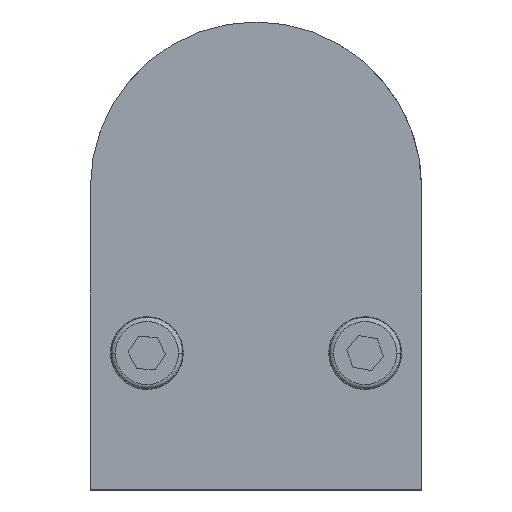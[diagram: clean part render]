
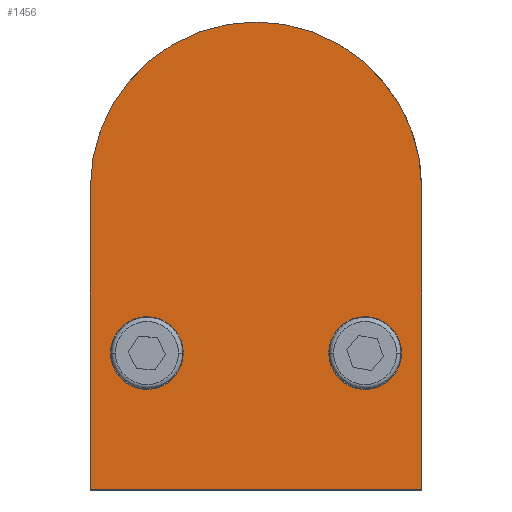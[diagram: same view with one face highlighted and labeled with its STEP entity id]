
A CAD part, top view. The second image highlights one B-rep face of the part: STEP entity #1456.
In plain terms, the highlighted planar face has unit normal (0, 0, 1).
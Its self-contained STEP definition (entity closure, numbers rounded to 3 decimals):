
#37 = AXIS2_PLACEMENT_3D ( 'NONE', #2010, #2848, #419 ) ;
#80 = CIRCLE ( 'NONE', #37, 20.5 ) ;
#141 = EDGE_CURVE ( 'NONE', #1044, #2005, #514, .T. ) ;
#180 = CIRCLE ( 'NONE', #1488, 4.5 ) ;
#208 = EDGE_CURVE ( 'NONE', #2427, #2179, #180, .T. ) ;
#292 = EDGE_LOOP ( 'NONE', ( #407, #1997 ) ) ;
#367 = VECTOR ( 'NONE', #1612, 1000. ) ;
#407 = ORIENTED_EDGE ( 'NONE', *, *, #1598, .F. ) ;
#419 = DIRECTION ( 'NONE',  ( 1., 0., 0. ) ) ;
#514 = CIRCLE ( 'NONE', #2050, 4.5 ) ;
#521 = EDGE_CURVE ( 'NONE', #2832, #1134, #1844, .T. ) ;
#555 = CARTESIAN_POINT ( 'NONE',  ( -20.5, 22.142, 14.25 ) ) ;
#702 = CARTESIAN_POINT ( 'NONE',  ( 13.5, 39.038, 14.25 ) ) ;
#722 = CARTESIAN_POINT ( 'NONE',  ( 20.5, 0., 14.25 ) ) ;
#869 = DIRECTION ( 'NONE',  ( 1., 0., 0. ) ) ;
#919 = CARTESIAN_POINT ( 'NONE',  ( -20.5, 0., 14.25 ) ) ;
#927 = ORIENTED_EDGE ( 'NONE', *, *, #2034, .F. ) ;
#934 = CARTESIAN_POINT ( 'NONE',  ( -13.5, 39.038, 14.25 ) ) ;
#1041 = PLANE ( 'NONE',  #1287 ) ;
#1044 = VERTEX_POINT ( 'NONE', #2152 ) ;
#1071 = VERTEX_POINT ( 'NONE', #2803 ) ;
#1134 = VERTEX_POINT ( 'NONE', #2860 ) ;
#1207 = DIRECTION ( 'NONE',  ( 0., 0., 1. ) ) ;
#1220 = EDGE_CURVE ( 'NONE', #1134, #1071, #80, .T. ) ;
#1257 = FACE_BOUND ( 'NONE', #1738, .T. ) ;
#1286 = ORIENTED_EDGE ( 'NONE', *, *, #1220, .T. ) ;
#1287 = AXIS2_PLACEMENT_3D ( 'NONE', #1923, #2839, #1328 ) ;
#1328 = DIRECTION ( 'NONE',  ( 1., 0., 0. ) ) ;
#1329 = EDGE_CURVE ( 'NONE', #2832, #1777, #2255, .T. ) ;
#1338 = ORIENTED_EDGE ( 'NONE', *, *, #521, .T. ) ;
#1424 = CARTESIAN_POINT ( 'NONE',  ( 20.5, 22.142, 14.25 ) ) ;
#1450 = DIRECTION ( 'NONE',  ( 1., 0., 0. ) ) ;
#1456 = ADVANCED_FACE ( 'NONE', ( #1708, #1257, #1955 ), #1041, .T. ) ;
#1476 = CIRCLE ( 'NONE', #2222, 4.5 ) ;
#1482 = CARTESIAN_POINT ( 'NONE',  ( 18., 39.038, 14.25 ) ) ;
#1488 = AXIS2_PLACEMENT_3D ( 'NONE', #2755, #1207, #1450 ) ;
#1598 = EDGE_CURVE ( 'NONE', #2005, #1044, #1476, .T. ) ;
#1612 = DIRECTION ( 'NONE',  ( 0., 1., 0. ) ) ;
#1646 = EDGE_CURVE ( 'NONE', #1071, #1777, #2213, .T. ) ;
#1662 = CIRCLE ( 'NONE', #2861, 4.5 ) ;
#1708 = FACE_BOUND ( 'NONE', #292, .T. ) ;
#1711 = ORIENTED_EDGE ( 'NONE', *, *, #1646, .T. ) ;
#1738 = EDGE_LOOP ( 'NONE', ( #1971, #927 ) ) ;
#1756 = VECTOR ( 'NONE', #2302, 1000. ) ;
#1777 = VERTEX_POINT ( 'NONE', #555 ) ;
#1809 = DIRECTION ( 'NONE',  ( -1., 0., 0. ) ) ;
#1814 = DIRECTION ( 'NONE',  ( 0., 0., 1. ) ) ;
#1844 = LINE ( 'NONE', #722, #367 ) ;
#1923 = CARTESIAN_POINT ( 'NONE',  ( 0., 59.5, 14.25 ) ) ;
#1955 = FACE_OUTER_BOUND ( 'NONE', #2215, .T. ) ;
#1971 = ORIENTED_EDGE ( 'NONE', *, *, #208, .F. ) ;
#1988 = CARTESIAN_POINT ( 'NONE',  ( -13.5, 39.038, 14.25 ) ) ;
#1997 = ORIENTED_EDGE ( 'NONE', *, *, #141, .F. ) ;
#2005 = VERTEX_POINT ( 'NONE', #2026 ) ;
#2010 = CARTESIAN_POINT ( 'NONE',  ( 0., 59.5, 14.25 ) ) ;
#2026 = CARTESIAN_POINT ( 'NONE',  ( -9., 39.038, 14.25 ) ) ;
#2034 = EDGE_CURVE ( 'NONE', #2179, #2427, #1662, .T. ) ;
#2050 = AXIS2_PLACEMENT_3D ( 'NONE', #1988, #2683, #2265 ) ;
#2086 = VECTOR ( 'NONE', #1809, 1000. ) ;
#2152 = CARTESIAN_POINT ( 'NONE',  ( -18., 39.038, 14.25 ) ) ;
#2179 = VERTEX_POINT ( 'NONE', #2593 ) ;
#2213 = LINE ( 'NONE', #919, #1756 ) ;
#2215 = EDGE_LOOP ( 'NONE', ( #2538, #1338, #1286, #1711 ) ) ;
#2222 = AXIS2_PLACEMENT_3D ( 'NONE', #934, #1814, #2719 ) ;
#2255 = LINE ( 'NONE', #2271, #2086 ) ;
#2265 = DIRECTION ( 'NONE',  ( 1., 0., 0. ) ) ;
#2271 = CARTESIAN_POINT ( 'NONE',  ( 47.6, 22.142, 14.25 ) ) ;
#2302 = DIRECTION ( 'NONE',  ( 0., -1., 0. ) ) ;
#2427 = VERTEX_POINT ( 'NONE', #1482 ) ;
#2538 = ORIENTED_EDGE ( 'NONE', *, *, #1329, .F. ) ;
#2593 = CARTESIAN_POINT ( 'NONE',  ( 9., 39.038, 14.25 ) ) ;
#2683 = DIRECTION ( 'NONE',  ( 0., 0., 1. ) ) ;
#2719 = DIRECTION ( 'NONE',  ( 1., 0., 0. ) ) ;
#2755 = CARTESIAN_POINT ( 'NONE',  ( 13.5, 39.038, 14.25 ) ) ;
#2803 = CARTESIAN_POINT ( 'NONE',  ( -20.5, 59.5, 14.25 ) ) ;
#2832 = VERTEX_POINT ( 'NONE', #1424 ) ;
#2839 = DIRECTION ( 'NONE',  ( 0., 0., 1. ) ) ;
#2848 = DIRECTION ( 'NONE',  ( 0., 0., 1. ) ) ;
#2860 = CARTESIAN_POINT ( 'NONE',  ( 20.5, 59.5, 14.25 ) ) ;
#2861 = AXIS2_PLACEMENT_3D ( 'NONE', #702, #2883, #869 ) ;
#2883 = DIRECTION ( 'NONE',  ( 0., 0., 1. ) ) ;
